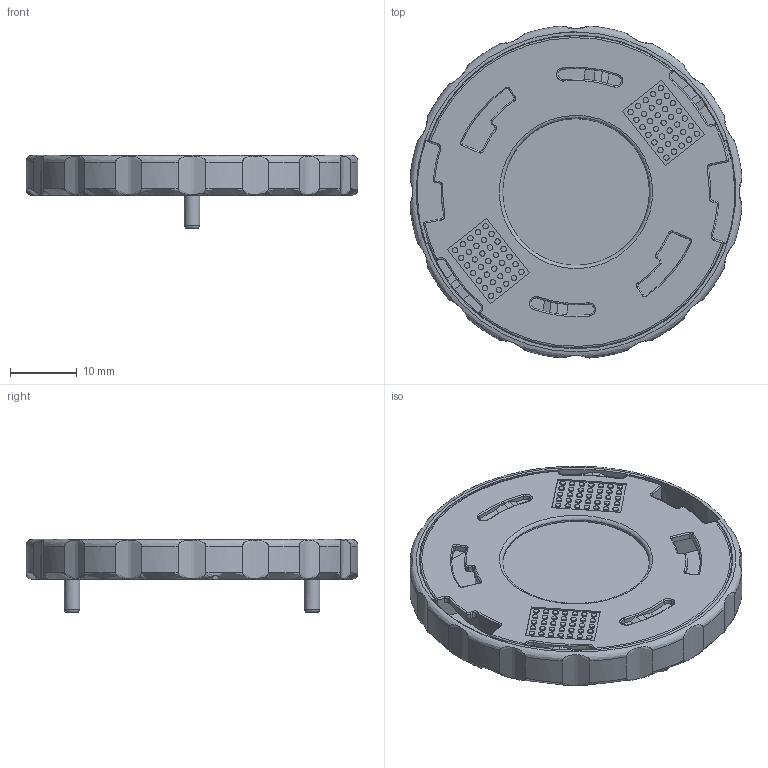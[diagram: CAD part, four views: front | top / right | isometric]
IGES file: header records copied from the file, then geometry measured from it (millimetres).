
Start section: C
Global section: file name: 023-702-03.igs; native system: By Siemens PLM Incorporated; preprocessor: XPlus GENERIC/IGES 23.0.61; author: Author; organization: Title; date: 20240422.084746; units: millimetre
Bounding box: 49.83 x 49.83 x 11 mm (x, y, z)
Volume: 5983.9 mm3; surface area: 11303.1 mm2
Topology: 2 solids, 2 shells, 1335 faces, 3558 edges, 2272 vertices
Faces by surface type: bspline 1335
